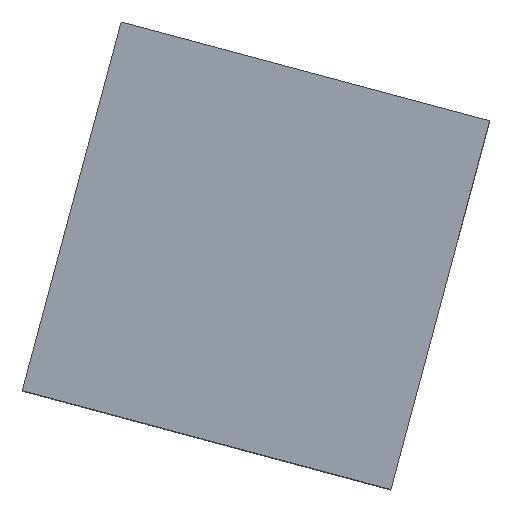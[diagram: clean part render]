
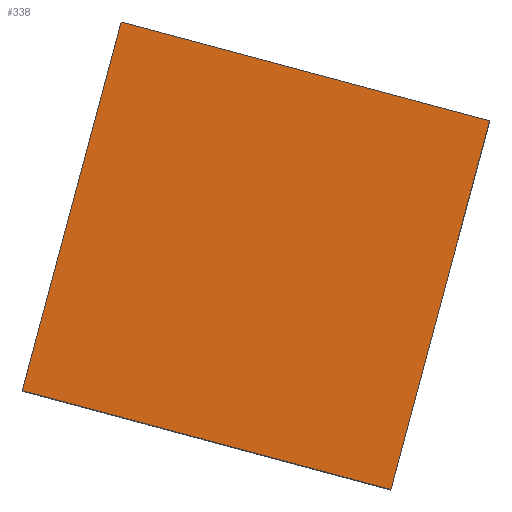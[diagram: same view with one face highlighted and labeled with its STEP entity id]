
A CAD part, top view. The second image highlights one B-rep face of the part: STEP entity #338.
In plain terms, the highlighted planar face has unit normal (0, 0, 1).
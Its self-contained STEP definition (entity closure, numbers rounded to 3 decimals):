
#24 = VERTEX_POINT('',#25);
#25 = CARTESIAN_POINT('',(229.302,-154.95,19.2));
#32 = PLANE('',#33);
#33 = AXIS2_PLACEMENT_3D('',#34,#35,#36);
#34 = CARTESIAN_POINT('',(229.302,-154.95,7.6));
#35 = DIRECTION('',(0.259,0.966,0.));
#36 = DIRECTION('',(0.966,-0.259,0.));
#44 = PLANE('',#45);
#45 = AXIS2_PLACEMENT_3D('',#46,#47,#48);
#46 = CARTESIAN_POINT('',(232.925,-141.427,7.6));
#47 = DIRECTION('',(0.966,-0.259,0.));
#48 = DIRECTION('',(-0.259,-0.966,0.));
#56 = EDGE_CURVE('',#24,#57,#59,.T.);
#57 = VERTEX_POINT('',#58);
#58 = CARTESIAN_POINT('',(242.825,-158.573,19.2));
#59 = SURFACE_CURVE('',#60,(#64,#71),.PCURVE_S1.);
#60 = LINE('',#61,#62);
#61 = CARTESIAN_POINT('',(229.302,-154.95,19.2));
#62 = VECTOR('',#63,1.);
#63 = DIRECTION('',(0.966,-0.259,0.));
#64 = PCURVE('',#32,#65);
#65 = DEFINITIONAL_REPRESENTATION('',(#66),#70);
#66 = LINE('',#67,#68);
#67 = CARTESIAN_POINT('',(0.,-11.6));
#68 = VECTOR('',#69,1.);
#69 = DIRECTION('',(1.,0.));
#70 = ( GEOMETRIC_REPRESENTATION_CONTEXT(2) 
PARAMETRIC_REPRESENTATION_CONTEXT() REPRESENTATION_CONTEXT('2D SPACE',''
  ) );
#71 = PCURVE('',#72,#77);
#72 = PLANE('',#73);
#73 = AXIS2_PLACEMENT_3D('',#74,#75,#76);
#74 = CARTESIAN_POINT('',(237.875,-150.,19.2));
#75 = DIRECTION('',(0.,0.,1.));
#76 = DIRECTION('',(0.966,-0.259,0.));
#77 = DEFINITIONAL_REPRESENTATION('',(#78),#82);
#78 = LINE('',#79,#80);
#79 = CARTESIAN_POINT('',(-7.,-7.));
#80 = VECTOR('',#81,1.);
#81 = DIRECTION('',(1.,0.));
#82 = ( GEOMETRIC_REPRESENTATION_CONTEXT(2) 
PARAMETRIC_REPRESENTATION_CONTEXT() REPRESENTATION_CONTEXT('2D SPACE',''
  ) );
#100 = PLANE('',#101);
#101 = AXIS2_PLACEMENT_3D('',#102,#103,#104);
#102 = CARTESIAN_POINT('',(242.825,-158.573,7.6));
#103 = DIRECTION('',(-0.966,0.259,0.));
#104 = DIRECTION('',(0.259,0.966,0.));
#142 = EDGE_CURVE('',#57,#143,#145,.T.);
#143 = VERTEX_POINT('',#144);
#144 = CARTESIAN_POINT('',(246.448,-145.05,19.2));
#145 = SURFACE_CURVE('',#146,(#150,#157),.PCURVE_S1.);
#146 = LINE('',#147,#148);
#147 = CARTESIAN_POINT('',(242.825,-158.573,19.2));
#148 = VECTOR('',#149,1.);
#149 = DIRECTION('',(0.259,0.966,0.));
#150 = PCURVE('',#100,#151);
#151 = DEFINITIONAL_REPRESENTATION('',(#152),#156);
#152 = LINE('',#153,#154);
#153 = CARTESIAN_POINT('',(0.,-11.6));
#154 = VECTOR('',#155,1.);
#155 = DIRECTION('',(1.,0.));
#156 = ( GEOMETRIC_REPRESENTATION_CONTEXT(2) 
PARAMETRIC_REPRESENTATION_CONTEXT() REPRESENTATION_CONTEXT('2D SPACE',''
  ) );
#157 = PCURVE('',#72,#158);
#158 = DEFINITIONAL_REPRESENTATION('',(#159),#163);
#159 = LINE('',#160,#161);
#160 = CARTESIAN_POINT('',(7.,-7.));
#161 = VECTOR('',#162,1.);
#162 = DIRECTION('',(0.,1.));
#163 = ( GEOMETRIC_REPRESENTATION_CONTEXT(2) 
PARAMETRIC_REPRESENTATION_CONTEXT() REPRESENTATION_CONTEXT('2D SPACE',''
  ) );
#181 = PLANE('',#182);
#182 = AXIS2_PLACEMENT_3D('',#183,#184,#185);
#183 = CARTESIAN_POINT('',(246.448,-145.05,7.6));
#184 = DIRECTION('',(-0.259,-0.966,0.));
#185 = DIRECTION('',(-0.966,0.259,0.));
#218 = EDGE_CURVE('',#143,#219,#221,.T.);
#219 = VERTEX_POINT('',#220);
#220 = CARTESIAN_POINT('',(232.925,-141.427,19.2));
#221 = SURFACE_CURVE('',#222,(#226,#233),.PCURVE_S1.);
#222 = LINE('',#223,#224);
#223 = CARTESIAN_POINT('',(246.448,-145.05,19.2));
#224 = VECTOR('',#225,1.);
#225 = DIRECTION('',(-0.966,0.259,0.));
#226 = PCURVE('',#181,#227);
#227 = DEFINITIONAL_REPRESENTATION('',(#228),#232);
#228 = LINE('',#229,#230);
#229 = CARTESIAN_POINT('',(0.,-11.6));
#230 = VECTOR('',#231,1.);
#231 = DIRECTION('',(1.,0.));
#232 = ( GEOMETRIC_REPRESENTATION_CONTEXT(2) 
PARAMETRIC_REPRESENTATION_CONTEXT() REPRESENTATION_CONTEXT('2D SPACE',''
  ) );
#233 = PCURVE('',#72,#234);
#234 = DEFINITIONAL_REPRESENTATION('',(#235),#239);
#235 = LINE('',#236,#237);
#236 = CARTESIAN_POINT('',(7.,7.));
#237 = VECTOR('',#238,1.);
#238 = DIRECTION('',(-1.,0.));
#239 = ( GEOMETRIC_REPRESENTATION_CONTEXT(2) 
PARAMETRIC_REPRESENTATION_CONTEXT() REPRESENTATION_CONTEXT('2D SPACE',''
  ) );
#289 = EDGE_CURVE('',#219,#24,#290,.T.);
#290 = SURFACE_CURVE('',#291,(#295,#302),.PCURVE_S1.);
#291 = LINE('',#292,#293);
#292 = CARTESIAN_POINT('',(232.925,-141.427,19.2));
#293 = VECTOR('',#294,1.);
#294 = DIRECTION('',(-0.259,-0.966,0.));
#295 = PCURVE('',#44,#296);
#296 = DEFINITIONAL_REPRESENTATION('',(#297),#301);
#297 = LINE('',#298,#299);
#298 = CARTESIAN_POINT('',(0.,-11.6));
#299 = VECTOR('',#300,1.);
#300 = DIRECTION('',(1.,-0.));
#301 = ( GEOMETRIC_REPRESENTATION_CONTEXT(2) 
PARAMETRIC_REPRESENTATION_CONTEXT() REPRESENTATION_CONTEXT('2D SPACE',''
  ) );
#302 = PCURVE('',#72,#303);
#303 = DEFINITIONAL_REPRESENTATION('',(#304),#308);
#304 = LINE('',#305,#306);
#305 = CARTESIAN_POINT('',(-7.,7.));
#306 = VECTOR('',#307,1.);
#307 = DIRECTION('',(0.,-1.));
#308 = ( GEOMETRIC_REPRESENTATION_CONTEXT(2) 
PARAMETRIC_REPRESENTATION_CONTEXT() REPRESENTATION_CONTEXT('2D SPACE',''
  ) );
#338 = ADVANCED_FACE('',(#339),#72,.T.);
#339 = FACE_BOUND('',#340,.T.);
#340 = EDGE_LOOP('',(#341,#342,#343,#344));
#341 = ORIENTED_EDGE('',*,*,#56,.T.);
#342 = ORIENTED_EDGE('',*,*,#142,.T.);
#343 = ORIENTED_EDGE('',*,*,#218,.T.);
#344 = ORIENTED_EDGE('',*,*,#289,.T.);
